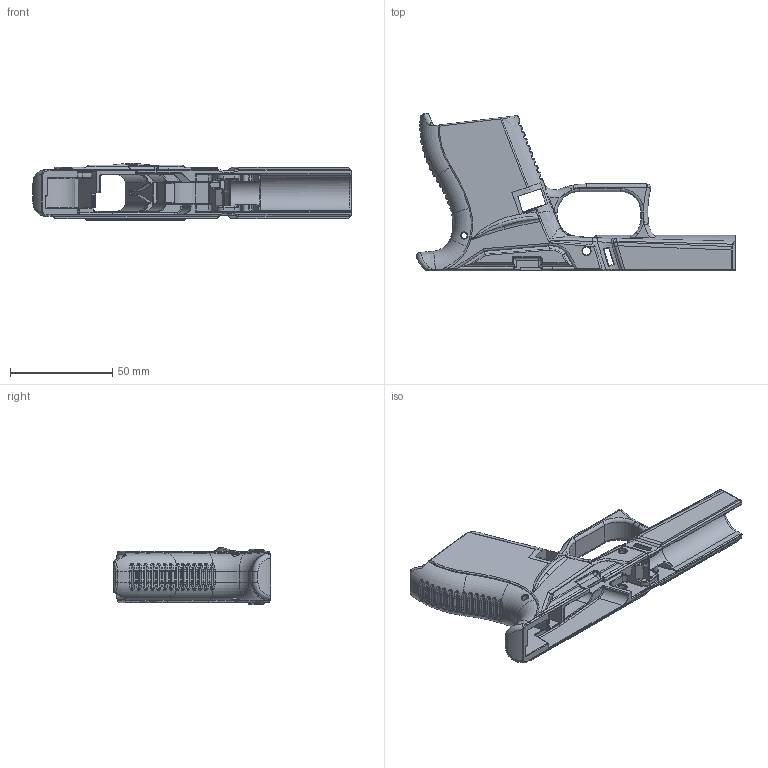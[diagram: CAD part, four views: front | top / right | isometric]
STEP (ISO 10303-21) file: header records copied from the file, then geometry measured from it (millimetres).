
FILE_DESCRIPTION(/* description */ (''),/* implementation_level */ '2;1');
FILE_NAME(/* name */ 'C:/Users/lilys/OneDrive/Desktop/3d printable/G43x/E43v2 v1.step',/* time_stamp */ '2020-07-13T09:56:46-07:00',/* author */ (''),/* organization */ (''),/* preprocessor_version */ 'ST-DEVELOPER v18.1',/* originating_system */ 'Autodesk Translation Framework v9.3.0.1241',/* authorisation */ '');
FILE_SCHEMA (('AUTOMOTIVE_DESIGN { 1 0 10303 214 3 1 1 }'));
Length unit declared in the file: millimetre
Products named in the file (1): E43v2
Bounding box: 155.83 x 77.16 x 27.91 mm (x, y, z)
Volume: 59114.1 mm3; surface area: 32936.3 mm2
Topology: 1 solids, 1 shells, 1312 faces, 3393 edges, 2031 vertices
Faces by surface type: bspline 503, cylinder 421, plane 247, torus 105, sphere 20, cone 16
Full cylindrical faces by diameter (mm): 3 x2, 3.5 x1, 4 x2, 4.5 x2
Entity records: 77048 total; most frequent: CARTESIAN_POINT 48551, ORIENTED_EDGE 6692, DIRECTION 4843, EDGE_CURVE 3346, VERTEX_POINT 2030, AXIS2_PLACEMENT_3D 1869, EDGE_LOOP 1326, FACE_OUTER_BOUND 1311
